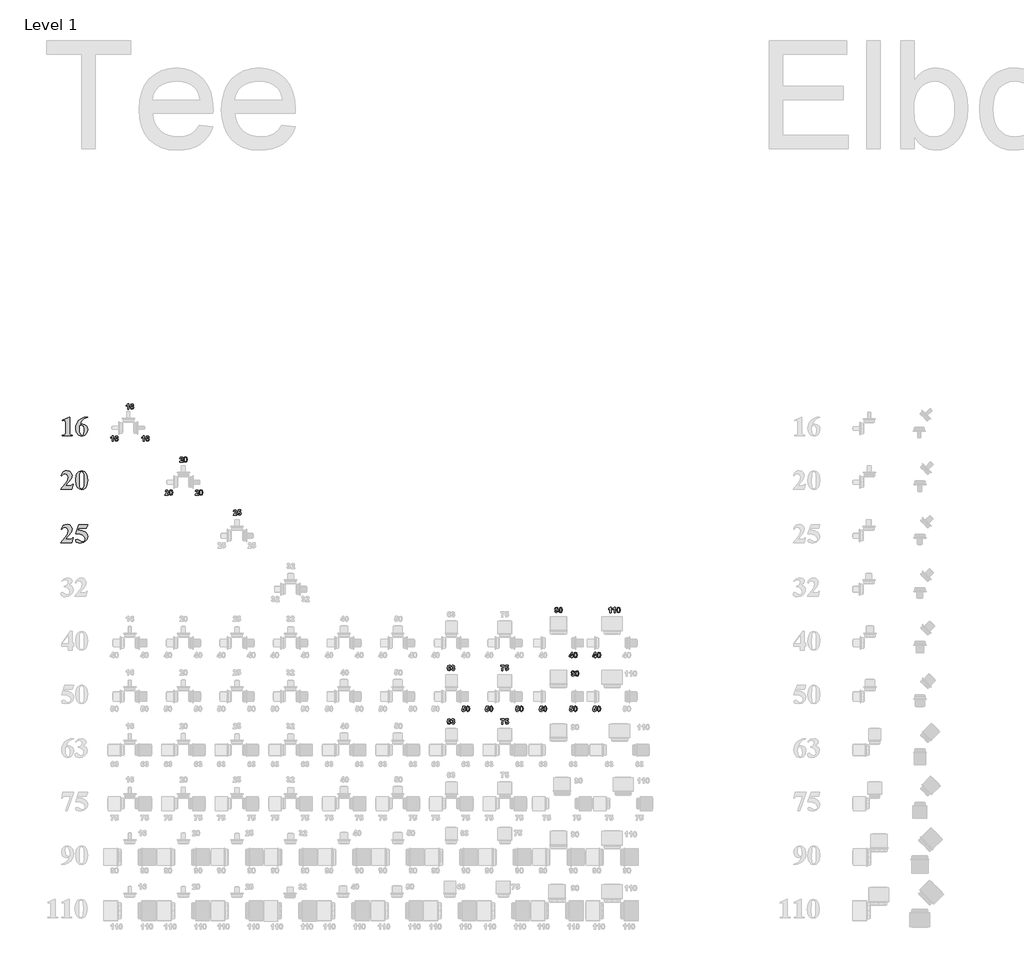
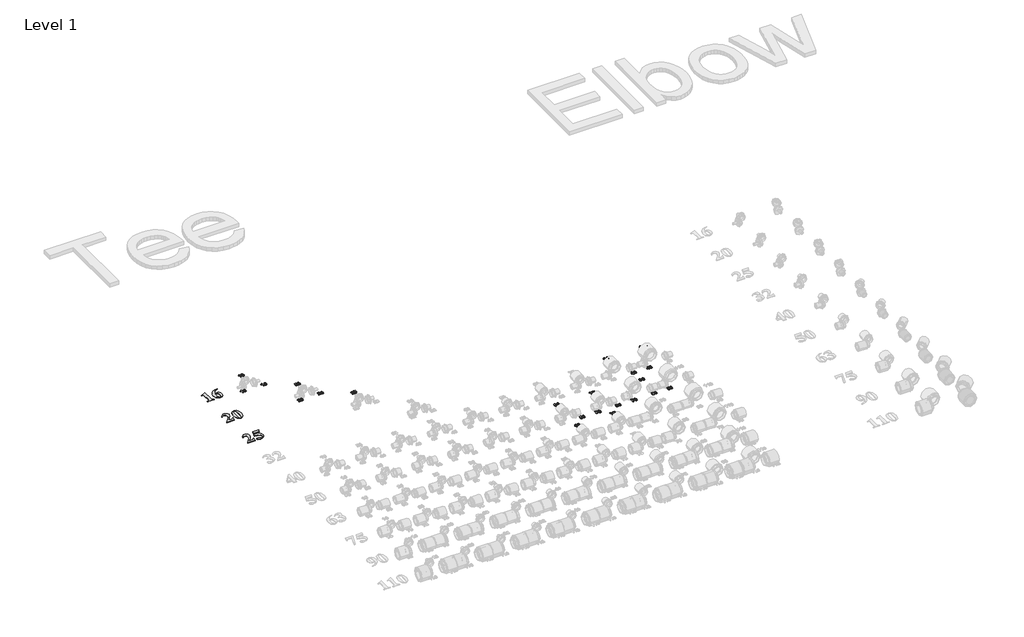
# One storey, part 25 of 57: 25 proxies.
"""IFC4 building model written with IfcOpenShell, lengths in millimetres."""

from ifc_helpers import new_model, si_unit, frame, origin, place, context, project, spatial, polyline, outline, extrude, element, save

model = new_model("IFC4")

# Units and contexts
model_context = context("Model", 3, world=origin())
ifc_project = project(units=[si_unit("LENGTHUNIT", "METRE", prefix="MILLI")], contexts=[model_context])

# Site, building, storey
site = spatial("IfcSite", under=ifc_project)
building = spatial("IfcBuilding", under=site)
storey = spatial("IfcBuildingStorey", under=building, Name="Level 1", Elevation=27.3876384)

# Proxies
placement = place(None, origin())
element("IfcBuildingElementProxy", 1, Name="100mm Arial", ObjectType="100mm Arial", at=placement, inside=storey, context=model_context, shape_type="SweptSolid", body=[
    extrude(outline(polyline([(12928.8058204, 18710.8916255), (12928.8058204, 18627.1351635), (12929.6646513, 18615.4387044), (12933.277194, 18611.2945045), (12942.0836189, 18609.6859006), (12944.510157, 18609.6859006), (12944.510157, 18606.196048), (12888.6725157, 18606.196048), (12888.6725157, 18609.6859006), (12891.4807564, 18609.6859006), (12901.1869089, 18611.1581821), (12905.0993608, 18615.1933242), (12906.1217786, 18627.1351635), (12906.1217786, 18679.4829522), (12905.4674312, 18688.1394225), (12903.0408931, 18691.1248823), (12898.9512221, 18692.3790481), (12889.9812104, 18689.95251), (12888.6725157, 18693.4423626), (12926.3247533, 18710.8916255), (12928.8058204, 18710.8916255)])), frame((0.0, 0.0, 27.3876384), z_axis=(0.0, 0.0, 1.0), x_axis=(1.0, 0.0, 0.0)), (0.0, 0.0, 1.0), 2.0),
    extrude(outline(polyline([(13030.0115453, 18710.8916255), (13030.0115453, 18709.1466992), (13007.9954831, 18700.0676296), (12994.8812715, 18686.5717153), (12987.424438, 18666.91403), (12992.9863906, 18669.4496261), (13002.9651878, 18670.7583208), (13013.5881082, 18668.7032611), (13022.2820671, 18662.5380821), (13028.0791758, 18652.8285215), (13030.0115453, 18640.1403172), (13025.7719197, 18621.8458556), (13013.748287, 18608.9906565), (12997.103326, 18604.4511217), (12979.299625, 18609.6313716), (12966.5398515, 18624.804051), (12961.9594199, 18646.520204), (12964.0621924, 18663.1481247), (12970.37051, 18678.5150634), (12980.5469746, 18691.7519652), (12994.2541886, 18701.989775), (13010.9298221, 18708.5843694), (13030.0115453, 18710.8916255)]), holes=[polyline([(12986.388388, 18661.2975485), (12984.6434617, 18646.1112369), (12986.8382518, 18626.0582168), (12992.8500682, 18612.4668768), (12999.3117484, 18609.6859006), (13006.08697, 18613.7074104), (13009.0724298, 18630.0524621), (13007.7501029, 18647.5698862), (13003.783122, 18658.6801591), (12994.5949945, 18663.7786156), (12986.388388, 18661.2975485)])]), frame((0.0, 0.0, 27.3876384), z_axis=(0.0, 0.0, 1.0), x_axis=(1.0, 0.0, 0.0)), (0.0, 0.0, 1.0), 2.0),
])
element("IfcBuildingElementProxy", 2, Name="100mm Arial", ObjectType="100mm Arial", at=placement, inside=storey, context=model_context, shape_type="SweptSolid", body=[
    extrude(outline(polyline([(12941.8109742, 18306.196048), (12879.9478842, 18306.196048), (12879.9478842, 18307.9409743), (12915.7188732, 18352.5456526), (12921.8261152, 18374.9297852), (12916.6049686, 18388.166687), (12903.8588273, 18393.4423626), (12892.8712446, 18390.5114317), (12884.6646381, 18381.718639), (12881.8563973, 18382.7274246), (12887.1150326, 18395.2281856), (12894.5480097, 18403.9937137), (12903.725913, 18409.1671476), (12914.2193272, 18410.8916255), (12928.7512914, 18407.3063472), (12939.0436301, 18397.4911369), (12942.7652307, 18385.80831), (12937.2578071, 18365.6598643), (12925.2546227, 18349.1171451), (12904.3495878, 18327.1351635), (12926.3247533, 18327.1351635), (12936.8624723, 18327.7349819), (12940.8703498, 18329.7798174), (12945.0009175, 18335.8597949), (12948.0000096, 18335.8597949), (12941.8109742, 18306.196048)])), frame((0.0, 0.0, 27.3876384), z_axis=(0.0, 0.0, 1.0), x_axis=(1.0, 0.0, 0.0)), (0.0, 0.0, 1.0), 2.0),
    extrude(outline(polyline([(13030.0115453, 18357.6713736), (13025.5674362, 18329.0982056), (13018.4514086, 18315.7658781), (13008.3090246, 18307.5047427), (12995.9582182, 18304.4511217), (12982.1760269, 18308.213619), (12971.2838698, 18319.0103504), (12965.3129502, 18332.6425871), (12961.9594199, 18356.4717368), (12966.7852317, 18387.0624758), (12971.7746303, 18397.2491647), (12978.8361289, 18404.7434868), (12995.9582182, 18410.8916255), (13013.0939396, 18404.8252802), (13024.8040309, 18388.5074929), (13030.0115453, 18357.6713736)]), holes=[polyline([(13007.3275035, 18357.6713736), (13006.9730654, 18389.0255179), (13002.8561299, 18403.2303085), (12995.9036892, 18405.6568466), (12990.0690919, 18403.8301269), (12985.7613051, 18394.505677), (12984.6434617, 18347.8561632), (12986.3611236, 18318.6831767), (12990.0554597, 18311.498988), (12996.4217142, 18309.6859006), (13002.8561299, 18312.1124387), (13006.9730654, 18325.1721214), (13007.3275035, 18357.6713736)])]), frame((0.0, 0.0, 27.3876384), z_axis=(0.0, 0.0, 1.0), x_axis=(1.0, 0.0, 0.0)), (0.0, 0.0, 1.0), 2.0),
])
element("IfcBuildingElementProxy", 3, Name="100mm Arial", ObjectType="100mm Arial", at=placement, inside=storey, context=model_context, shape_type="SweptSolid", body=[
    extrude(outline(polyline([(12941.8109742, 18006.196048), (12879.9478842, 18006.196048), (12879.9478842, 18007.9409743), (12915.7188732, 18052.5456526), (12921.8261152, 18074.9297852), (12916.6049686, 18088.166687), (12903.8588273, 18093.4423626), (12892.8712446, 18090.5114317), (12884.6646381, 18081.718639), (12881.8563973, 18082.7274246), (12887.1150326, 18095.2281856), (12894.5480097, 18103.9937137), (12903.725913, 18109.1671476), (12914.2193272, 18110.8916255), (12928.7512914, 18107.3063472), (12939.0436301, 18097.4911369), (12942.7652307, 18085.80831), (12937.2578071, 18065.6598643), (12925.2546227, 18049.1171451), (12904.3495878, 18027.1351635), (12926.3247533, 18027.1351635), (12936.8624723, 18027.7349819), (12940.8703498, 18029.7798174), (12945.0009175, 18035.8597949), (12948.0000096, 18035.8597949), (12941.8109742, 18006.196048)])), frame((0.0, 0.0, 27.3876384), z_axis=(0.0, 0.0, 1.0), x_axis=(1.0, 0.0, 0.0)), (0.0, 0.0, 1.0), 2.0),
    extrude(outline(polyline([(12981.1536091, 18109.1466992), (13030.0115453, 18109.1466992), (13023.0318402, 18088.2075837), (12978.7543355, 18088.2075837), (12975.5643921, 18079.4829522), (12999.8570378, 18075.7068227), (13017.8243258, 18066.3414761), (13026.9647404, 18055.0880647), (13030.0115453, 18041.394483), (13024.3132704, 18022.6910543), (13008.5953015, 18009.0042887), (12986.6065038, 18004.4511217), (12966.7852317, 18009.249669), (12961.9594199, 18016.9655149), (12964.4813837, 18022.8410089), (12970.3568777, 18025.3902372), (12976.4913842, 18024.0815425), (12987.1245288, 18017.1836307), (12995.3038708, 18012.4123479), (13000.729501, 18011.4308268), (13011.5807614, 18015.9976261), (13016.052135, 18026.9715766), (13012.6577081, 18039.0088416), (13002.4744273, 18048.5650395), (12987.1177127, 18054.8017878), (12968.2029843, 18056.8807039), (12961.9594199, 18056.7989104), (12981.1536091, 18109.1466992)])), frame((0.0, 0.0, 27.3876384), z_axis=(0.0, 0.0, 1.0), x_axis=(1.0, 0.0, 0.0)), (0.0, 0.0, 1.0), 2.0),
])
element("IfcBuildingElementProxy", 4, Name="30mm Arial", ObjectType="30mm Arial", at=placement, inside=storey, context=model_context, shape_type="SweptSolid", body=[
    extrude(outline(polyline([(13172.1703597, 18575.8288539), (13166.340306, 18575.8288539), (13166.340306, 18597.7067378), (13159.0527389, 18592.8331773), (13159.0527389, 18598.663231), (13163.9187082, 18601.5213237), (13167.5245357, 18606.4366359), (13172.1703597, 18606.4366359), (13172.1703597, 18575.8288539)])), frame((0.0, 0.0, 27.3876384), z_axis=(0.0, 0.0, 1.0), x_axis=(1.0, 0.0, 0.0)), (0.0, 0.0, 1.0), 2.0),
    extrude(outline(polyline([(13199.8631149, 18598.3140351), (13194.0330612, 18597.6915554), (13193.0006558, 18600.2611819), (13190.8295681, 18601.09242), (13187.8386291, 18599.4792867), (13186.2976123, 18592.7041266), (13191.6266458, 18595.2623663), (13197.7869174, 18592.5295286), (13200.3489527, 18585.4772892), (13197.7299832, 18578.1176055), (13190.9965749, 18575.3430161), (13183.754555, 18578.92607), (13180.9154403, 18590.6696808), (13183.8798101, 18602.7397138), (13191.5810985, 18606.4366359), (13197.0847299, 18604.3566428), (13199.8631149, 18598.3140351)]), holes=[polyline([(13186.745494, 18585.6063398), (13188.0056358, 18581.9663519), (13190.8827066, 18580.687232), (13193.4789024, 18581.7348198), (13194.518899, 18585.1736405), (13193.3991946, 18588.7756724), (13190.6018316, 18589.9181504), (13187.8651983, 18588.8250153), (13186.745494, 18585.6063398)])]), frame((0.0, 0.0, 27.3876384), z_axis=(0.0, 0.0, 1.0), x_axis=(1.0, 0.0, 0.0)), (0.0, 0.0, 1.0), 2.0),
])
element("IfcBuildingElementProxy", 5, Name="30mm Arial", ObjectType="30mm Arial", at=placement, inside=storey, context=model_context, shape_type="SweptSolid", body=[
    extrude(outline(polyline([(13345.9203597, 18575.8288539), (13340.090306, 18575.8288539), (13340.090306, 18597.7067378), (13332.8027389, 18592.8331773), (13332.8027389, 18598.663231), (13337.6687082, 18601.5213237), (13341.2745357, 18606.4366359), (13345.9203597, 18606.4366359), (13345.9203597, 18575.8288539)])), frame((0.0, 0.0, 27.3876384), z_axis=(0.0, 0.0, 1.0), x_axis=(1.0, 0.0, 0.0)), (0.0, 0.0, 1.0), 2.0),
    extrude(outline(polyline([(13373.6131149, 18598.3140351), (13367.7830612, 18597.6915554), (13366.7506558, 18600.2611819), (13364.5795681, 18601.09242), (13361.5886291, 18599.4792867), (13360.0476123, 18592.7041266), (13365.3766458, 18595.2623663), (13371.5369174, 18592.5295286), (13374.0989527, 18585.4772892), (13371.4799832, 18578.1176055), (13364.7465749, 18575.3430161), (13357.504555, 18578.92607), (13354.6654403, 18590.6696808), (13357.6298101, 18602.7397138), (13365.3310985, 18606.4366359), (13370.8347299, 18604.3566428), (13373.6131149, 18598.3140351)]), holes=[polyline([(13360.495494, 18585.6063398), (13361.7556358, 18581.9663519), (13364.6327066, 18580.687232), (13367.2289024, 18581.7348198), (13368.268899, 18585.1736405), (13367.1491946, 18588.7756724), (13364.3518316, 18589.9181504), (13361.6151983, 18588.8250153), (13360.495494, 18585.6063398)])]), frame((0.0, 0.0, 27.3876384), z_axis=(0.0, 0.0, 1.0), x_axis=(1.0, 0.0, 0.0)), (0.0, 0.0, 1.0), 2.0),
])
element("IfcBuildingElementProxy", 6, Name="30mm Arial", ObjectType="30mm Arial", at=placement, inside=storey, context=model_context, shape_type="SweptSolid", body=[
    extrude(outline(polyline([(13259.0985445, 18754.6474945), (13253.2684908, 18754.6474945), (13253.2684908, 18776.5253784), (13245.9809237, 18771.6518178), (13245.9809237, 18777.4818715), (13250.846893, 18780.3399643), (13254.4527205, 18785.2552765), (13259.0985445, 18785.2552765), (13259.0985445, 18754.6474945)])), frame((0.0, 0.0, 27.3876384), z_axis=(0.0, 0.0, 1.0), x_axis=(1.0, 0.0, 0.0)), (0.0, 0.0, 1.0), 2.0),
    extrude(outline(polyline([(13286.7912997, 18777.1326756), (13280.961246, 18776.5101959), (13279.9288406, 18779.0798225), (13277.7577529, 18779.9110606), (13274.7668139, 18778.2979272), (13273.2257971, 18771.5227672), (13278.5548306, 18774.0810069), (13284.7151022, 18771.3481692), (13287.2771375, 18764.2959297), (13284.658168, 18756.936246), (13277.9247597, 18754.1616567), (13270.6827398, 18757.7447105), (13267.8436251, 18769.4883213), (13270.8079949, 18781.5583544), (13278.5092833, 18785.2552765), (13284.0129147, 18783.1752834), (13286.7912997, 18777.1326756)]), holes=[polyline([(13273.6736788, 18764.4249804), (13274.9338206, 18760.7849924), (13277.8108914, 18759.5058726), (13280.4070872, 18760.5534604), (13281.4470838, 18763.9922811), (13280.3273794, 18767.594313), (13277.5300164, 18768.736791), (13274.7933831, 18767.6436559), (13273.6736788, 18764.4249804)])]), frame((0.0, 0.0, 27.3876384), z_axis=(0.0, 0.0, 1.0), x_axis=(1.0, 0.0, 0.0)), (0.0, 0.0, 1.0), 2.0),
])
element("IfcBuildingElementProxy", 7, Name="30mm Arial", ObjectType="30mm Arial", at=placement, inside=storey, context=model_context, shape_type="SweptSolid", body=[
    extrude(outline(polyline([(13482.0287378, 18279.4089076), (13482.0287378, 18273.5788539), (13462.5952254, 18273.5788539), (13464.4550733, 18279.298835), (13470.566002, 18286.4687383), (13475.0751842, 18291.3574813), (13476.1986841, 18294.864623), (13475.2535777, 18297.8138103), (13472.6459951, 18298.84242), (13470.0346169, 18297.8289927), (13468.911117, 18294.4698797), (13463.0810633, 18295.0012648), (13466.2086442, 18302.0497087), (13472.7750458, 18304.1866359), (13479.5615927, 18301.7916074), (13482.0287378, 18295.8362986), (13481.3531196, 18291.979961), (13479.2123968, 18288.146397), (13475.5875912, 18284.3204243), (13472.2588431, 18281.003063), (13471.1657081, 18279.4089076), (13482.0287378, 18279.4089076)])), frame((0.0, 0.0, 27.3876384), z_axis=(0.0, 0.0, 1.0), x_axis=(1.0, 0.0, 0.0)), (0.0, 0.0, 1.0), 2.0),
    extrude(outline(polyline([(13495.6321965, 18304.1866359), (13502.4263346, 18301.0286902), (13505.3489527, 18288.6322348), (13502.4111522, 18276.2054146), (13495.6321965, 18273.0930161), (13488.5913439, 18276.5090632), (13485.9154403, 18288.6929645), (13488.8532408, 18301.0742375), (13495.6321965, 18304.1866359)]), holes=[polyline([(13495.6321965, 18298.84242), (13493.6888453, 18298.2009623), (13492.3679737, 18295.8970283), (13491.745494, 18288.6322348), (13492.2996528, 18281.6141558), (13493.7002321, 18279.0710985), (13495.6321965, 18278.437232), (13497.5755477, 18279.0786898), (13498.8964193, 18281.3826237), (13499.518899, 18288.6322348), (13498.9647402, 18295.6465182), (13497.5641609, 18298.2009623), (13495.6321965, 18298.84242)])]), frame((0.0, 0.0, 27.3876384), z_axis=(0.0, 0.0, 1.0), x_axis=(1.0, 0.0, 0.0)), (0.0, 0.0, 1.0), 2.0),
])
element("IfcBuildingElementProxy", 8, Name="30mm Arial", ObjectType="30mm Arial", at=placement, inside=storey, context=model_context, shape_type="SweptSolid", body=[
    extrude(outline(polyline([(13650.7787378, 18279.4089076), (13650.7787378, 18273.5788539), (13631.3452254, 18273.5788539), (13633.2050733, 18279.298835), (13639.316002, 18286.4687383), (13643.8251842, 18291.3574813), (13644.9486841, 18294.864623), (13644.0035777, 18297.8138103), (13641.3959951, 18298.84242), (13638.7846169, 18297.8289927), (13637.661117, 18294.4698797), (13631.8310633, 18295.0012648), (13634.9586442, 18302.0497087), (13641.5250458, 18304.1866359), (13648.3115927, 18301.7916074), (13650.7787378, 18295.8362986), (13650.1031196, 18291.979961), (13647.9623968, 18288.146397), (13644.3375912, 18284.3204243), (13641.0088431, 18281.003063), (13639.9157081, 18279.4089076), (13650.7787378, 18279.4089076)])), frame((0.0, 0.0, 27.3876384), z_axis=(0.0, 0.0, 1.0), x_axis=(1.0, 0.0, 0.0)), (0.0, 0.0, 1.0), 2.0),
    extrude(outline(polyline([(13664.3821965, 18304.1866359), (13671.1763346, 18301.0286902), (13674.0989527, 18288.6322348), (13671.1611522, 18276.2054146), (13664.3821965, 18273.0930161), (13657.3413439, 18276.5090632), (13654.6654403, 18288.6929645), (13657.6032408, 18301.0742375), (13664.3821965, 18304.1866359)]), holes=[polyline([(13664.3821965, 18298.84242), (13662.4388453, 18298.2009623), (13661.1179737, 18295.8970283), (13660.495494, 18288.6322348), (13661.0496528, 18281.6141558), (13662.4502321, 18279.0710985), (13664.3821965, 18278.437232), (13666.3255477, 18279.0786898), (13667.6464193, 18281.3826237), (13668.268899, 18288.6322348), (13667.7147402, 18295.6465182), (13666.3141609, 18298.2009623), (13664.3821965, 18298.84242)])]), frame((0.0, 0.0, 27.3876384), z_axis=(0.0, 0.0, 1.0), x_axis=(1.0, 0.0, 0.0)), (0.0, 0.0, 1.0), 2.0),
])
element("IfcBuildingElementProxy", 9, Name="30mm Arial", ObjectType="30mm Arial", at=placement, inside=storey, context=model_context, shape_type="SweptSolid", body=[
    extrude(outline(polyline([(13563.9569226, 18463.2275482), (13563.9569226, 18457.3974945), (13544.5234103, 18457.3974945), (13546.3832581, 18463.1174756), (13552.4941868, 18470.2873789), (13557.003369, 18475.1761218), (13558.1268689, 18478.6832635), (13557.1817626, 18481.6324508), (13554.5741799, 18482.6610606), (13551.9628017, 18481.6476333), (13550.8393018, 18478.2885203), (13545.0092481, 18478.8199054), (13548.136829, 18485.8683493), (13554.7032306, 18488.0052765), (13561.4897775, 18485.6102479), (13563.9569226, 18479.6549391), (13563.2813044, 18475.7986015), (13561.1405816, 18471.9650376), (13557.515776, 18468.1390648), (13554.1870279, 18464.8217035), (13553.0938929, 18463.2275482), (13563.9569226, 18463.2275482)])), frame((0.0, 0.0, 27.3876384), z_axis=(0.0, 0.0, 1.0), x_axis=(1.0, 0.0, 0.0)), (0.0, 0.0, 1.0), 2.0),
    extrude(outline(polyline([(13577.5603813, 18488.0052765), (13584.3545194, 18484.8473307), (13587.2771375, 18472.4508754), (13584.339337, 18460.0240552), (13577.5603813, 18456.9116567), (13570.5195287, 18460.3277038), (13567.8436251, 18472.5116051), (13570.7814256, 18484.892878), (13577.5603813, 18488.0052765)]), holes=[polyline([(13577.5603813, 18482.6610606), (13575.6170301, 18482.0196029), (13574.2961585, 18479.7156689), (13573.6736788, 18472.4508754), (13574.2278376, 18465.4327964), (13575.6284169, 18462.8897391), (13577.5603813, 18462.2558726), (13579.5037325, 18462.8973303), (13580.8246041, 18465.2012643), (13581.4470838, 18472.4508754), (13580.892925, 18479.4651587), (13579.4923457, 18482.0196029), (13577.5603813, 18482.6610606)])]), frame((0.0, 0.0, 27.3876384), z_axis=(0.0, 0.0, 1.0), x_axis=(1.0, 0.0, 0.0)), (0.0, 0.0, 1.0), 2.0),
])
element("IfcBuildingElementProxy", 10, Name="30mm Arial", ObjectType="30mm Arial", at=placement, inside=storey, context=model_context, shape_type="SweptSolid", body=[
    extrude(outline(polyline([(13864.9569226, 18167.2275482), (13864.9569226, 18161.3974945), (13845.5234103, 18161.3974945), (13847.3832581, 18167.1174756), (13853.4941868, 18174.2873789), (13858.003369, 18179.1761218), (13859.1268689, 18182.6832635), (13858.1817626, 18185.6324508), (13855.5741799, 18186.6610606), (13852.9628017, 18185.6476333), (13851.8393018, 18182.2885203), (13846.0092481, 18182.8199054), (13849.136829, 18189.8683493), (13855.7032306, 18192.0052765), (13862.4897775, 18189.6102479), (13864.9569226, 18183.6549391), (13864.2813044, 18179.7986015), (13862.1405816, 18175.9650376), (13858.515776, 18172.1390648), (13855.1870279, 18168.8217035), (13854.0938929, 18167.2275482), (13864.9569226, 18167.2275482)])), frame((0.0, 0.0, 27.3876384), z_axis=(0.0, 0.0, 1.0), x_axis=(1.0, 0.0, 0.0)), (0.0, 0.0, 1.0), 2.0),
    extrude(outline(polyline([(13868.8436251, 18170.0135244), (13874.187841, 18170.6284129), (13875.6757193, 18167.432511), (13878.5300164, 18166.2558726), (13881.6538017, 18167.5046276), (13882.9329216, 18171.266075), (13881.7448963, 18174.7959903), (13878.6514759, 18175.9726288), (13874.3852126, 18173.5434397), (13869.3294629, 18174.2949701), (13872.7303276, 18191.5194387), (13887.3054619, 18191.5194387), (13887.3054619, 18185.689385), (13877.4444726, 18185.689385), (13876.2678341, 18180.1250238), (13880.0254859, 18181.3168447), (13886.219918, 18178.5574377), (13888.7629753, 18171.3951257), (13886.6450261, 18164.8439065), (13878.621111, 18160.9116567), (13871.9370455, 18163.3788018), (13868.8436251, 18170.0135244)])), frame((0.0, 0.0, 27.3876384), z_axis=(0.0, 0.0, 1.0), x_axis=(1.0, 0.0, 0.0)), (0.0, 0.0, 1.0), 2.0),
])
element("IfcBuildingElementProxy", 11, Name="30mm Arial", ObjectType="30mm Arial", at=placement, inside=storey, context=model_context, shape_type="SweptSolid", body=[
    extrude(outline(polyline([(15738.0336573, 17362.5788539), (15738.0336573, 17368.8947455), (15726.3735498, 17368.8947455), (15726.3735498, 17373.7303499), (15738.8079613, 17392.7007981), (15743.863711, 17392.7007981), (15743.863711, 17373.7531236), (15747.7504134, 17373.7531236), (15747.7504134, 17368.8947455), (15743.863711, 17368.8947455), (15743.863711, 17362.5788539), (15738.0336573, 17362.5788539)]), holes=[polyline([(15738.0336573, 17373.7531236), (15738.0336573, 17383.6976162), (15731.5203941, 17373.7531236), (15738.0336573, 17373.7531236)])]), frame((0.0, 0.0, 27.3876384), z_axis=(0.0, 0.0, 1.0), x_axis=(1.0, 0.0, 0.0)), (0.0, 0.0, 1.0), 2.0),
    extrude(outline(polyline([(15760.3821965, 17393.1866359), (15767.1763346, 17390.0286902), (15770.0989527, 17377.6322348), (15767.1611522, 17365.2054146), (15760.3821965, 17362.0930161), (15753.3413439, 17365.5090632), (15750.6654403, 17377.6929645), (15753.6032408, 17390.0742375), (15760.3821965, 17393.1866359)]), holes=[polyline([(15760.3821965, 17387.84242), (15758.4388453, 17387.2009623), (15757.1179737, 17384.8970283), (15756.495494, 17377.6322348), (15757.0496528, 17370.6141558), (15758.4502321, 17368.0710985), (15760.3821965, 17367.437232), (15762.3255477, 17368.0786898), (15763.6464193, 17370.3826237), (15764.268899, 17377.6322348), (15763.7147402, 17384.6465182), (15762.3141609, 17387.2009623), (15760.3821965, 17387.84242)])]), frame((0.0, 0.0, 27.3876384), z_axis=(0.0, 0.0, 1.0), x_axis=(1.0, 0.0, 0.0)), (0.0, 0.0, 1.0), 2.0),
])
element("IfcBuildingElementProxy", 12, Name="30mm Arial", ObjectType="30mm Arial", at=placement, inside=storey, context=model_context, shape_type="SweptSolid", body=[
    extrude(outline(polyline([(15646.0092481, 17624.0342576), (15651.8393018, 17624.6567373), (15652.8755027, 17622.0909063), (15655.0883421, 17621.2558726), (15658.0337338, 17622.8690059), (15659.5899331, 17629.6213924), (15654.1773962, 17627.0859263), (15648.0854456, 17629.8073772), (15645.5234103, 17636.8937771), (15648.1537665, 17644.2230959), (15654.8530144, 17647.0052765), (15662.1178079, 17643.4260183), (15664.9569226, 17631.648247), (15661.9887573, 17619.6047832), (15654.2608996, 17615.9116567), (15648.7193121, 17617.9461025), (15646.0092481, 17624.0342576)]), holes=[polyline([(15659.1268689, 17636.7571352), (15657.8743183, 17640.3743495), (15654.9820651, 17641.6610606), (15652.3858693, 17640.6058816), (15651.353464, 17637.1518784), (15652.4769639, 17633.5726202), (15655.2781225, 17632.4301422), (15658.0147558, 17633.5270729), (15659.1268689, 17636.7571352)])]), frame((0.0, 0.0, 27.3876384), z_axis=(0.0, 0.0, 1.0), x_axis=(1.0, 0.0, 0.0)), (0.0, 0.0, 1.0), 2.0),
    extrude(outline(polyline([(15678.5603813, 17647.0052765), (15685.3545194, 17643.8473307), (15688.2771375, 17631.4508754), (15685.339337, 17619.0240552), (15678.5603813, 17615.9116567), (15671.5195287, 17619.3277038), (15668.8436251, 17631.5116051), (15671.7814256, 17643.892878), (15678.5603813, 17647.0052765)]), holes=[polyline([(15678.5603813, 17641.6610606), (15676.6170301, 17641.0196029), (15675.2961585, 17638.7156689), (15674.6736788, 17631.4508754), (15675.2278376, 17624.4327964), (15676.6284169, 17621.8897391), (15678.5603813, 17621.2558726), (15680.5037325, 17621.8973303), (15681.8246041, 17624.2012643), (15682.4470838, 17631.4508754), (15681.892925, 17638.4651587), (15680.4923457, 17641.0196029), (15678.5603813, 17641.6610606)])]), frame((0.0, 0.0, 27.3876384), z_axis=(0.0, 0.0, 1.0), x_axis=(1.0, 0.0, 0.0)), (0.0, 0.0, 1.0), 2.0),
])
element("IfcBuildingElementProxy", 13, Name="30mm Arial", ObjectType="30mm Arial", at=placement, inside=storey, context=model_context, shape_type="SweptSolid", body=[
    extrude(outline(polyline([(15869.2836573, 17362.5788539), (15869.2836573, 17368.8947455), (15857.6235498, 17368.8947455), (15857.6235498, 17373.7303499), (15870.0579613, 17392.7007981), (15875.113711, 17392.7007981), (15875.113711, 17373.7531236), (15879.0004134, 17373.7531236), (15879.0004134, 17368.8947455), (15875.113711, 17368.8947455), (15875.113711, 17362.5788539), (15869.2836573, 17362.5788539)]), holes=[polyline([(15869.2836573, 17373.7531236), (15869.2836573, 17383.6976162), (15862.7703941, 17373.7531236), (15869.2836573, 17373.7531236)])]), frame((0.0, 0.0, 27.3876384), z_axis=(0.0, 0.0, 1.0), x_axis=(1.0, 0.0, 0.0)), (0.0, 0.0, 1.0), 2.0),
    extrude(outline(polyline([(15891.6321965, 17393.1866359), (15898.4263346, 17390.0286902), (15901.3489527, 17377.6322348), (15898.4111522, 17365.2054146), (15891.6321965, 17362.0930161), (15884.5913439, 17365.5090632), (15881.9154403, 17377.6929645), (15884.8532408, 17390.0742375), (15891.6321965, 17393.1866359)]), holes=[polyline([(15891.6321965, 17387.84242), (15889.6888453, 17387.2009623), (15888.3679737, 17384.8970283), (15887.745494, 17377.6322348), (15888.2996528, 17370.6141558), (15889.7002321, 17368.0710985), (15891.6321965, 17367.437232), (15893.5755477, 17368.0786898), (15894.8964193, 17370.3826237), (15895.518899, 17377.6322348), (15894.9647402, 17384.6465182), (15893.5641609, 17387.2009623), (15891.6321965, 17387.84242)])]), frame((0.0, 0.0, 27.3876384), z_axis=(0.0, 0.0, 1.0), x_axis=(1.0, 0.0, 0.0)), (0.0, 0.0, 1.0), 2.0),
])
element("IfcBuildingElementProxy", 14, Name="30mm Arial", ObjectType="30mm Arial", at=placement, inside=storey, context=model_context, shape_type="SweptSolid", body=[
    extrude(outline(polyline([(15960.0985445, 17616.3974945), (15954.2684908, 17616.3974945), (15954.2684908, 17638.2753784), (15946.9809237, 17633.4018178), (15946.9809237, 17639.2318715), (15951.846893, 17642.0899643), (15955.4527205, 17647.0052765), (15960.0985445, 17647.0052765), (15960.0985445, 17616.3974945)])), frame((0.0, 0.0, 27.3876384), z_axis=(0.0, 0.0, 1.0), x_axis=(1.0, 0.0, 0.0)), (0.0, 0.0, 1.0), 2.0),
    extrude(outline(polyline([(15983.4187594, 17616.3974945), (15977.5887057, 17616.3974945), (15977.5887057, 17638.2753784), (15970.3011385, 17633.4018178), (15970.3011385, 17639.2318715), (15975.1671078, 17642.0899643), (15978.7729353, 17647.0052765), (15983.4187594, 17647.0052765), (15983.4187594, 17616.3974945)])), frame((0.0, 0.0, 27.3876384), z_axis=(0.0, 0.0, 1.0), x_axis=(1.0, 0.0, 0.0)), (0.0, 0.0, 1.0), 2.0),
    extrude(outline(polyline([(16001.8805962, 17647.0052765), (16008.6747343, 17643.8473307), (16011.5973523, 17631.4508754), (16008.6595518, 17619.0240552), (16001.8805962, 17615.9116567), (15994.8397435, 17619.3277038), (15992.16384, 17631.5116051), (15995.1016405, 17643.892878), (16001.8805962, 17647.0052765)]), holes=[polyline([(16001.8805962, 17641.6610606), (15999.9372449, 17641.0196029), (15998.6163734, 17638.7156689), (15997.9938937, 17631.4508754), (15998.5480524, 17624.4327964), (15999.9486317, 17621.8897391), (16001.8805962, 17621.2558726), (16003.8239474, 17621.8973303), (16005.1448189, 17624.2012643), (16005.7672986, 17631.4508754), (16005.2131399, 17638.4651587), (16003.8125606, 17641.0196029), (16001.8805962, 17641.6610606)])]), frame((0.0, 0.0, 27.3876384), z_axis=(0.0, 0.0, 1.0), x_axis=(1.0, 0.0, 0.0)), (0.0, 0.0, 1.0), 2.0),
])
element("IfcBuildingElementProxy", 15, Name="30mm Arial", ObjectType="30mm Arial", at=placement, inside=storey, context=model_context, shape_type="SweptSolid", body=[
    extrude(outline(polyline([(15125.3452254, 17071.1948838), (15130.6894414, 17071.8097723), (15132.1773196, 17068.6138705), (15135.0316168, 17067.437232), (15138.1554021, 17068.685987), (15139.4345219, 17072.4474344), (15138.2464967, 17075.9773498), (15135.1530762, 17077.1539882), (15130.886813, 17074.7247992), (15125.8310633, 17075.4763295), (15129.2319279, 17092.7007981), (15143.8070622, 17092.7007981), (15143.8070622, 17086.8707444), (15133.9460729, 17086.8707444), (15132.7694345, 17081.3063832), (15136.5270863, 17082.4982041), (15142.7215184, 17079.7387972), (15145.2645756, 17072.5764851), (15143.1466264, 17066.0252659), (15135.1227114, 17062.0930161), (15128.4386459, 17064.5601612), (15125.3452254, 17071.1948838)])), frame((0.0, 0.0, 27.3876384), z_axis=(0.0, 0.0, 1.0), x_axis=(1.0, 0.0, 0.0)), (0.0, 0.0, 1.0), 2.0),
    extrude(outline(polyline([(15158.3821965, 17093.1866359), (15165.1763346, 17090.0286902), (15168.0989527, 17077.6322348), (15165.1611522, 17065.2054146), (15158.3821965, 17062.0930161), (15151.3413439, 17065.5090632), (15148.6654403, 17077.6929645), (15151.6032408, 17090.0742375), (15158.3821965, 17093.1866359)]), holes=[polyline([(15158.3821965, 17087.84242), (15156.4388453, 17087.2009623), (15155.1179737, 17084.8970283), (15154.495494, 17077.6322348), (15155.0496528, 17070.6141558), (15156.4502321, 17068.0710985), (15158.3821965, 17067.437232), (15160.3255477, 17068.0786898), (15161.6464193, 17070.3826237), (15162.268899, 17077.6322348), (15161.7147402, 17084.6465182), (15160.3141609, 17087.2009623), (15158.3821965, 17087.84242)])]), frame((0.0, 0.0, 27.3876384), z_axis=(0.0, 0.0, 1.0), x_axis=(1.0, 0.0, 0.0)), (0.0, 0.0, 1.0), 2.0),
])
element("IfcBuildingElementProxy", 16, Name="30mm Arial", ObjectType="30mm Arial", at=placement, inside=storey, context=model_context, shape_type="SweptSolid", body=[
    extrude(outline(polyline([(15062.4710848, 17313.8826756), (15056.6410311, 17313.2601959), (15055.6086258, 17315.8298225), (15053.4375381, 17316.6610606), (15050.446599, 17315.0479272), (15048.9055822, 17308.2727672), (15054.2346157, 17310.8310069), (15060.3948873, 17308.0981692), (15062.9569226, 17301.0459297), (15060.3379532, 17293.686246), (15053.6045448, 17290.9116567), (15046.362525, 17294.4947105), (15043.5234103, 17306.2383213), (15046.48778, 17318.3083544), (15054.1890684, 17322.0052765), (15059.6926998, 17319.9252834), (15062.4710848, 17313.8826756)]), holes=[polyline([(15049.353464, 17301.1749804), (15050.6136058, 17297.5349924), (15053.4906766, 17296.2558726), (15056.0868724, 17297.3034604), (15057.1268689, 17300.7422811), (15056.0071646, 17304.344313), (15053.2098016, 17305.486791), (15050.4731683, 17304.3936559), (15049.353464, 17301.1749804)])]), frame((0.0, 0.0, 27.3876384), z_axis=(0.0, 0.0, 1.0), x_axis=(1.0, 0.0, 0.0)), (0.0, 0.0, 1.0), 2.0),
    extrude(outline(polyline([(15066.8436251, 17299.9527947), (15072.6736788, 17300.6284129), (15073.9869592, 17297.3793725), (15076.5755637, 17296.2558726), (15079.3311751, 17297.5425837), (15080.4470838, 17301.0079737), (15079.4260653, 17304.2797877), (15076.9323509, 17305.486791), (15074.6170301, 17305.0540917), (15075.1256415, 17309.8593313), (15077.9989167, 17310.8158244), (15078.9895703, 17313.5182973), (15078.2494268, 17315.8070488), (15076.2795063, 17316.6610606), (15074.2033088, 17315.6704069), (15073.1595166, 17312.7743581), (15067.3294629, 17313.6473479), (15068.9350051, 17318.2817852), (15071.9335353, 17321.0108272), (15076.2415502, 17322.0052765), (15082.7851782, 17319.2496652), (15084.8196241, 17314.1483682), (15080.454675, 17307.7186084), (15084.6905734, 17305.2173028), (15086.2771375, 17300.5221359), (15083.464592, 17293.7242021), (15076.4616955, 17290.9116567), (15069.8763158, 17293.4129623), (15066.8436251, 17299.9527947)])), frame((0.0, 0.0, 27.3876384), z_axis=(0.0, 0.0, 1.0), x_axis=(1.0, 0.0, 0.0)), (0.0, 0.0, 1.0), 2.0),
])
element("IfcBuildingElementProxy", 17, Name="30mm Arial", ObjectType="30mm Arial", at=placement, inside=storey, context=model_context, shape_type="SweptSolid", body=[
    extrude(outline(polyline([(15256.5952254, 17071.1948838), (15261.9394414, 17071.8097723), (15263.4273196, 17068.6138705), (15266.2816168, 17067.437232), (15269.4054021, 17068.685987), (15270.6845219, 17072.4474344), (15269.4964967, 17075.9773498), (15266.4030762, 17077.1539882), (15262.136813, 17074.7247992), (15257.0810633, 17075.4763295), (15260.4819279, 17092.7007981), (15275.0570622, 17092.7007981), (15275.0570622, 17086.8707444), (15265.1960729, 17086.8707444), (15264.0194345, 17081.3063832), (15267.7770863, 17082.4982041), (15273.9715184, 17079.7387972), (15276.5145756, 17072.5764851), (15274.3966264, 17066.0252659), (15266.3727114, 17062.0930161), (15259.6886459, 17064.5601612), (15256.5952254, 17071.1948838)])), frame((0.0, 0.0, 27.3876384), z_axis=(0.0, 0.0, 1.0), x_axis=(1.0, 0.0, 0.0)), (0.0, 0.0, 1.0), 2.0),
    extrude(outline(polyline([(15289.6321965, 17093.1866359), (15296.4263346, 17090.0286902), (15299.3489527, 17077.6322348), (15296.4111522, 17065.2054146), (15289.6321965, 17062.0930161), (15282.5913439, 17065.5090632), (15279.9154403, 17077.6929645), (15282.8532408, 17090.0742375), (15289.6321965, 17093.1866359)]), holes=[polyline([(15289.6321965, 17087.84242), (15287.6888453, 17087.2009623), (15286.3679737, 17084.8970283), (15285.745494, 17077.6322348), (15286.2996528, 17070.6141558), (15287.7002321, 17068.0710985), (15289.6321965, 17067.437232), (15291.5755477, 17068.0786898), (15292.8964193, 17070.3826237), (15293.518899, 17077.6322348), (15292.9647402, 17084.6465182), (15291.5641609, 17087.2009623), (15289.6321965, 17087.84242)])]), frame((0.0, 0.0, 27.3876384), z_axis=(0.0, 0.0, 1.0), x_axis=(1.0, 0.0, 0.0)), (0.0, 0.0, 1.0), 2.0),
])
element("IfcBuildingElementProxy", 18, Name="30mm Arial", ObjectType="30mm Arial", at=placement, inside=storey, context=model_context, shape_type="SweptSolid", body=[
    extrude(outline(polyline([(15425.3452254, 17071.1948838), (15430.6894414, 17071.8097723), (15432.1773196, 17068.6138705), (15435.0316168, 17067.437232), (15438.1554021, 17068.685987), (15439.4345219, 17072.4474344), (15438.2464967, 17075.9773498), (15435.1530762, 17077.1539882), (15430.886813, 17074.7247992), (15425.8310633, 17075.4763295), (15429.2319279, 17092.7007981), (15443.8070622, 17092.7007981), (15443.8070622, 17086.8707444), (15433.9460729, 17086.8707444), (15432.7694345, 17081.3063832), (15436.5270863, 17082.4982041), (15442.7215184, 17079.7387972), (15445.2645756, 17072.5764851), (15443.1466264, 17066.0252659), (15435.1227114, 17062.0930161), (15428.4386459, 17064.5601612), (15425.3452254, 17071.1948838)])), frame((0.0, 0.0, 27.3876384), z_axis=(0.0, 0.0, 1.0), x_axis=(1.0, 0.0, 0.0)), (0.0, 0.0, 1.0), 2.0),
    extrude(outline(polyline([(15458.3821965, 17093.1866359), (15465.1763346, 17090.0286902), (15468.0989527, 17077.6322348), (15465.1611522, 17065.2054146), (15458.3821965, 17062.0930161), (15451.3413439, 17065.5090632), (15448.6654403, 17077.6929645), (15451.6032408, 17090.0742375), (15458.3821965, 17093.1866359)]), holes=[polyline([(15458.3821965, 17087.84242), (15456.4388453, 17087.2009623), (15455.1179737, 17084.8970283), (15454.495494, 17077.6322348), (15455.0496528, 17070.6141558), (15456.4502321, 17068.0710985), (15458.3821965, 17067.437232), (15460.3255477, 17068.0786898), (15461.6464193, 17070.3826237), (15462.268899, 17077.6322348), (15461.7147402, 17084.6465182), (15460.3141609, 17087.2009623), (15458.3821965, 17087.84242)])]), frame((0.0, 0.0, 27.3876384), z_axis=(0.0, 0.0, 1.0), x_axis=(1.0, 0.0, 0.0)), (0.0, 0.0, 1.0), 2.0),
])
element("IfcBuildingElementProxy", 19, Name="30mm Arial", ObjectType="30mm Arial", at=placement, inside=storey, context=model_context, shape_type="SweptSolid", body=[
    extrude(outline(polyline([(15343.5234103, 17315.689385), (15343.5234103, 17321.5194387), (15362.9569226, 17321.5194387), (15362.9569226, 17317.1468984), (15357.9505158, 17310.1781623), (15354.067609, 17300.5297271), (15352.7543286, 17291.3974945), (15346.9242749, 17291.3974945), (15349.584996, 17304.1089853), (15356.2918352, 17315.689385), (15343.5234103, 17315.689385)])), frame((0.0, 0.0, 27.3876384), z_axis=(0.0, 0.0, 1.0), x_axis=(1.0, 0.0, 0.0)), (0.0, 0.0, 1.0), 2.0),
    extrude(outline(polyline([(15366.8436251, 17300.0135244), (15372.187841, 17300.6284129), (15373.6757193, 17297.432511), (15376.5300164, 17296.2558726), (15379.6538017, 17297.5046276), (15380.9329216, 17301.266075), (15379.7448963, 17304.7959903), (15376.6514759, 17305.9726288), (15372.3852126, 17303.5434397), (15367.3294629, 17304.2949701), (15370.7303276, 17321.5194387), (15385.3054619, 17321.5194387), (15385.3054619, 17315.689385), (15375.4444726, 17315.689385), (15374.2678341, 17310.1250238), (15378.0254859, 17311.3168447), (15384.219918, 17308.5574377), (15386.7629753, 17301.3951257), (15384.6450261, 17294.8439065), (15376.621111, 17290.9116567), (15369.9370455, 17293.3788018), (15366.8436251, 17300.0135244)])), frame((0.0, 0.0, 27.3876384), z_axis=(0.0, 0.0, 1.0), x_axis=(1.0, 0.0, 0.0)), (0.0, 0.0, 1.0), 2.0),
])
element("IfcBuildingElementProxy", 20, Name="30mm Arial", ObjectType="30mm Arial", at=placement, inside=storey, context=model_context, shape_type="SweptSolid", body=[
    extrude(outline(polyline([(15558.5952254, 17071.1948838), (15563.9394414, 17071.8097723), (15565.4273196, 17068.6138705), (15568.2816168, 17067.437232), (15571.4054021, 17068.685987), (15572.6845219, 17072.4474344), (15571.4964967, 17075.9773498), (15568.4030762, 17077.1539882), (15564.136813, 17074.7247992), (15559.0810633, 17075.4763295), (15562.4819279, 17092.7007981), (15577.0570622, 17092.7007981), (15577.0570622, 17086.8707444), (15567.1960729, 17086.8707444), (15566.0194345, 17081.3063832), (15569.7770863, 17082.4982041), (15575.9715184, 17079.7387972), (15578.5145756, 17072.5764851), (15576.3966264, 17066.0252659), (15568.3727114, 17062.0930161), (15561.6886459, 17064.5601612), (15558.5952254, 17071.1948838)])), frame((0.0, 0.0, 27.3876384), z_axis=(0.0, 0.0, 1.0), x_axis=(1.0, 0.0, 0.0)), (0.0, 0.0, 1.0), 2.0),
    extrude(outline(polyline([(15591.6321965, 17093.1866359), (15598.4263346, 17090.0286902), (15601.3489527, 17077.6322348), (15598.4111522, 17065.2054146), (15591.6321965, 17062.0930161), (15584.5913439, 17065.5090632), (15581.9154403, 17077.6929645), (15584.8532408, 17090.0742375), (15591.6321965, 17093.1866359)]), holes=[polyline([(15591.6321965, 17087.84242), (15589.6888453, 17087.2009623), (15588.3679737, 17084.8970283), (15587.745494, 17077.6322348), (15588.2996528, 17070.6141558), (15589.7002321, 17068.0710985), (15591.6321965, 17067.437232), (15593.5755477, 17068.0786898), (15594.8964193, 17070.3826237), (15595.518899, 17077.6322348), (15594.9647402, 17084.6465182), (15593.5641609, 17087.2009623), (15591.6321965, 17087.84242)])]), frame((0.0, 0.0, 27.3876384), z_axis=(0.0, 0.0, 1.0), x_axis=(1.0, 0.0, 0.0)), (0.0, 0.0, 1.0), 2.0),
])
element("IfcBuildingElementProxy", 21, Name="30mm Arial", ObjectType="30mm Arial", at=placement, inside=storey, context=model_context, shape_type="SweptSolid", body=[
    extrude(outline(polyline([(15727.3452254, 17071.1948838), (15732.6894414, 17071.8097723), (15734.1773196, 17068.6138705), (15737.0316168, 17067.437232), (15740.1554021, 17068.685987), (15741.4345219, 17072.4474344), (15740.2464967, 17075.9773498), (15737.1530762, 17077.1539882), (15732.886813, 17074.7247992), (15727.8310633, 17075.4763295), (15731.2319279, 17092.7007981), (15745.8070622, 17092.7007981), (15745.8070622, 17086.8707444), (15735.9460729, 17086.8707444), (15734.7694345, 17081.3063832), (15738.5270863, 17082.4982041), (15744.7215184, 17079.7387972), (15747.2645756, 17072.5764851), (15745.1466264, 17066.0252659), (15737.1227114, 17062.0930161), (15730.4386459, 17064.5601612), (15727.3452254, 17071.1948838)])), frame((0.0, 0.0, 27.3876384), z_axis=(0.0, 0.0, 1.0), x_axis=(1.0, 0.0, 0.0)), (0.0, 0.0, 1.0), 2.0),
    extrude(outline(polyline([(15760.3821965, 17093.1866359), (15767.1763346, 17090.0286902), (15770.0989527, 17077.6322348), (15767.1611522, 17065.2054146), (15760.3821965, 17062.0930161), (15753.3413439, 17065.5090632), (15750.6654403, 17077.6929645), (15753.6032408, 17090.0742375), (15760.3821965, 17093.1866359)]), holes=[polyline([(15760.3821965, 17087.84242), (15758.4388453, 17087.2009623), (15757.1179737, 17084.8970283), (15756.495494, 17077.6322348), (15757.0496528, 17070.6141558), (15758.4502321, 17068.0710985), (15760.3821965, 17067.437232), (15762.3255477, 17068.0786898), (15763.6464193, 17070.3826237), (15764.268899, 17077.6322348), (15763.7147402, 17084.6465182), (15762.3141609, 17087.2009623), (15760.3821965, 17087.84242)])]), frame((0.0, 0.0, 27.3876384), z_axis=(0.0, 0.0, 1.0), x_axis=(1.0, 0.0, 0.0)), (0.0, 0.0, 1.0), 2.0),
])
element("IfcBuildingElementProxy", 22, Name="30mm Arial", ObjectType="30mm Arial", at=placement, inside=storey, context=model_context, shape_type="SweptSolid", body=[
    extrude(outline(polyline([(15737.8496462, 17267.5170895), (15743.6796999, 17268.1395692), (15744.7159008, 17265.5737383), (15746.9287402, 17264.7387045), (15749.874132, 17266.3518379), (15751.4303312, 17273.1042243), (15746.0177943, 17270.5687582), (15739.9258437, 17273.2902091), (15737.3638084, 17280.376609), (15739.9941646, 17287.7059278), (15746.6934126, 17290.4881084), (15753.958206, 17286.9088502), (15756.7973207, 17275.1310789), (15753.8291554, 17263.0876151), (15746.1012977, 17259.3944886), (15740.5597102, 17261.4289344), (15737.8496462, 17267.5170895)]), holes=[polyline([(15750.967267, 17280.2399671), (15749.7147164, 17283.8571814), (15746.8224632, 17285.1438925), (15744.2262674, 17284.0887135), (15743.1938621, 17280.6347103), (15744.317362, 17277.0554521), (15747.1185206, 17275.9129741), (15749.8551539, 17277.0099048), (15750.967267, 17280.2399671)])]), frame((0.0, 0.0, 27.3876384), z_axis=(0.0, 0.0, 1.0), x_axis=(1.0, 0.0, 0.0)), (0.0, 0.0, 1.0), 2.0),
    extrude(outline(polyline([(15770.4007794, 17290.4881084), (15777.1949175, 17287.3301627), (15780.1175356, 17274.9337073), (15777.1797351, 17262.5068871), (15770.4007794, 17259.3944886), (15763.3599268, 17262.8105357), (15760.6840232, 17274.994437), (15763.6218237, 17287.37571), (15770.4007794, 17290.4881084)]), holes=[polyline([(15770.4007794, 17285.1438925), (15768.4574282, 17284.5024348), (15767.1365566, 17282.1985008), (15766.5140769, 17274.9337073), (15767.0682357, 17267.9156283), (15768.468815, 17265.372571), (15770.4007794, 17264.7387045), (15772.3441306, 17265.3801623), (15773.6650022, 17267.6840962), (15774.2874819, 17274.9337073), (15773.7333231, 17281.9479907), (15772.3327438, 17284.5024348), (15770.4007794, 17285.1438925)])]), frame((0.0, 0.0, 27.3876384), z_axis=(0.0, 0.0, 1.0), x_axis=(1.0, 0.0, 0.0)), (0.0, 0.0, 1.0), 2.0),
])
element("IfcBuildingElementProxy", 23, Name="30mm Arial", ObjectType="30mm Arial", at=placement, inside=storey, context=model_context, shape_type="SweptSolid", body=[
    extrude(outline(polyline([(15858.5952254, 17071.1948838), (15863.9394414, 17071.8097723), (15865.4273196, 17068.6138705), (15868.2816168, 17067.437232), (15871.4054021, 17068.685987), (15872.6845219, 17072.4474344), (15871.4964967, 17075.9773498), (15868.4030762, 17077.1539882), (15864.136813, 17074.7247992), (15859.0810633, 17075.4763295), (15862.4819279, 17092.7007981), (15877.0570622, 17092.7007981), (15877.0570622, 17086.8707444), (15867.1960729, 17086.8707444), (15866.0194345, 17081.3063832), (15869.7770863, 17082.4982041), (15875.9715184, 17079.7387972), (15878.5145756, 17072.5764851), (15876.3966264, 17066.0252659), (15868.3727114, 17062.0930161), (15861.6886459, 17064.5601612), (15858.5952254, 17071.1948838)])), frame((0.0, 0.0, 27.3876384), z_axis=(0.0, 0.0, 1.0), x_axis=(1.0, 0.0, 0.0)), (0.0, 0.0, 1.0), 2.0),
    extrude(outline(polyline([(15891.6321965, 17093.1866359), (15898.4263346, 17090.0286902), (15901.3489527, 17077.6322348), (15898.4111522, 17065.2054146), (15891.6321965, 17062.0930161), (15884.5913439, 17065.5090632), (15881.9154403, 17077.6929645), (15884.8532408, 17090.0742375), (15891.6321965, 17093.1866359)]), holes=[polyline([(15891.6321965, 17087.84242), (15889.6888453, 17087.2009623), (15888.3679737, 17084.8970283), (15887.745494, 17077.6322348), (15888.2996528, 17070.6141558), (15889.7002321, 17068.0710985), (15891.6321965, 17067.437232), (15893.5755477, 17068.0786898), (15894.8964193, 17070.3826237), (15895.518899, 17077.6322348), (15894.9647402, 17084.6465182), (15893.5641609, 17087.2009623), (15891.6321965, 17087.84242)])]), frame((0.0, 0.0, 27.3876384), z_axis=(0.0, 0.0, 1.0), x_axis=(1.0, 0.0, 0.0)), (0.0, 0.0, 1.0), 2.0),
])
element("IfcBuildingElementProxy", 24, Name="30mm Arial", ObjectType="30mm Arial", at=placement, inside=storey, context=model_context, shape_type="SweptSolid", body=[
    extrude(outline(polyline([(15062.4710848, 17013.8826756), (15056.6410311, 17013.2601959), (15055.6086258, 17015.8298225), (15053.4375381, 17016.6610606), (15050.446599, 17015.0479272), (15048.9055822, 17008.2727672), (15054.2346157, 17010.8310069), (15060.3948873, 17008.0981692), (15062.9569226, 17001.0459297), (15060.3379532, 16993.686246), (15053.6045448, 16990.9116567), (15046.362525, 16994.4947105), (15043.5234103, 17006.2383213), (15046.48778, 17018.3083544), (15054.1890684, 17022.0052765), (15059.6926998, 17019.9252834), (15062.4710848, 17013.8826756)]), holes=[polyline([(15049.353464, 17001.1749804), (15050.6136058, 16997.5349924), (15053.4906766, 16996.2558726), (15056.0868724, 16997.3034604), (15057.1268689, 17000.7422811), (15056.0071646, 17004.344313), (15053.2098016, 17005.486791), (15050.4731683, 17004.3936559), (15049.353464, 17001.1749804)])]), frame((0.0, 0.0, 27.3876384), z_axis=(0.0, 0.0, 1.0), x_axis=(1.0, 0.0, 0.0)), (0.0, 0.0, 1.0), 2.0),
    extrude(outline(polyline([(15066.8436251, 16999.9527947), (15072.6736788, 17000.6284129), (15073.9869592, 16997.3793725), (15076.5755637, 16996.2558726), (15079.3311751, 16997.5425837), (15080.4470838, 17001.0079737), (15079.4260653, 17004.2797877), (15076.9323509, 17005.486791), (15074.6170301, 17005.0540917), (15075.1256415, 17009.8593313), (15077.9989167, 17010.8158244), (15078.9895703, 17013.5182973), (15078.2494268, 17015.8070488), (15076.2795063, 17016.6610606), (15074.2033088, 17015.6704069), (15073.1595166, 17012.7743581), (15067.3294629, 17013.6473479), (15068.9350051, 17018.2817852), (15071.9335353, 17021.0108272), (15076.2415502, 17022.0052765), (15082.7851782, 17019.2496652), (15084.8196241, 17014.1483682), (15080.454675, 17007.7186084), (15084.6905734, 17005.2173028), (15086.2771375, 17000.5221359), (15083.464592, 16993.7242021), (15076.4616955, 16990.9116567), (15069.8763158, 16993.4129623), (15066.8436251, 16999.9527947)])), frame((0.0, 0.0, 27.3876384), z_axis=(0.0, 0.0, 1.0), x_axis=(1.0, 0.0, 0.0)), (0.0, 0.0, 1.0), 2.0),
])
element("IfcBuildingElementProxy", 25, Name="30mm Arial", ObjectType="30mm Arial", at=placement, inside=storey, context=model_context, shape_type="SweptSolid", body=[
    extrude(outline(polyline([(15343.5234103, 17015.689385), (15343.5234103, 17021.5194387), (15362.9569226, 17021.5194387), (15362.9569226, 17017.1468984), (15357.9505158, 17010.1781623), (15354.067609, 17000.5297271), (15352.7543286, 16991.3974945), (15346.9242749, 16991.3974945), (15349.584996, 17004.1089853), (15356.2918352, 17015.689385), (15343.5234103, 17015.689385)])), frame((0.0, 0.0, 27.3876384), z_axis=(0.0, 0.0, 1.0), x_axis=(1.0, 0.0, 0.0)), (0.0, 0.0, 1.0), 2.0),
    extrude(outline(polyline([(15366.8436251, 17000.0135244), (15372.187841, 17000.6284129), (15373.6757193, 16997.432511), (15376.5300164, 16996.2558726), (15379.6538017, 16997.5046276), (15380.9329216, 17001.266075), (15379.7448963, 17004.7959903), (15376.6514759, 17005.9726288), (15372.3852126, 17003.5434397), (15367.3294629, 17004.2949701), (15370.7303276, 17021.5194387), (15385.3054619, 17021.5194387), (15385.3054619, 17015.689385), (15375.4444726, 17015.689385), (15374.2678341, 17010.1250238), (15378.0254859, 17011.3168447), (15384.219918, 17008.5574377), (15386.7629753, 17001.3951257), (15384.6450261, 16994.8439065), (15376.621111, 16990.9116567), (15369.9370455, 16993.3788018), (15366.8436251, 17000.0135244)])), frame((0.0, 0.0, 27.3876384), z_axis=(0.0, 0.0, 1.0), x_axis=(1.0, 0.0, 0.0)), (0.0, 0.0, 1.0), 2.0),
])

save(model, "model.ifc")
